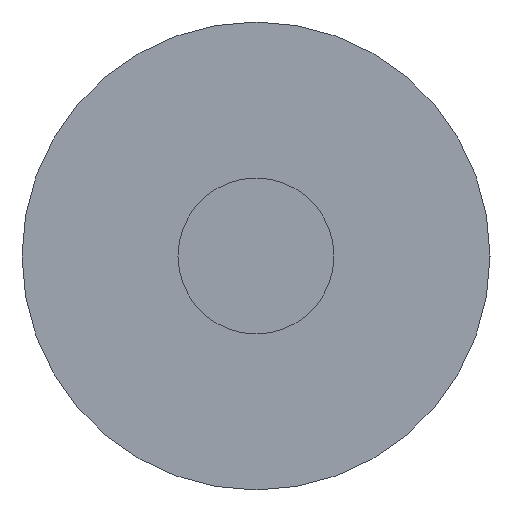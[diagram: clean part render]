
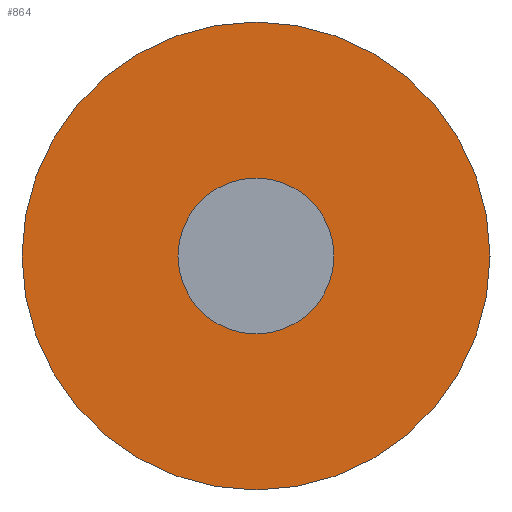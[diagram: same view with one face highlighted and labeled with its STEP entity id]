
A CAD part, left-side view. The second image highlights one B-rep face of the part: STEP entity #864.
In plain terms, the highlighted planar face has unit normal (-1, 0, 0).
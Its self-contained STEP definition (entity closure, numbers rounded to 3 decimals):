
#864 = ADVANCED_FACE( '', ( #2150, #2151 ), #2152, .F. );
#2150 = FACE_BOUND( '', #3875, .T. );
#2151 = FACE_OUTER_BOUND( '', #3876, .T. );
#2152 = PLANE( '', #3877 );
#3875 = EDGE_LOOP( '', ( #6004 ) );
#3876 = EDGE_LOOP( '', ( #6005 ) );
#3877 = AXIS2_PLACEMENT_3D( '', #6006, #6007, #6008 );
#6004 = ORIENTED_EDGE( '', *, *, #7504, .F. );
#6005 = ORIENTED_EDGE( '', *, *, #7865, .T. );
#6006 = CARTESIAN_POINT( '', ( -125., 0., 15. ) );
#6007 = DIRECTION( '', ( 1., 0., 0. ) );
#6008 = DIRECTION( '', ( 0., 0., -1. ) );
#7504 = EDGE_CURVE( '', #8463, #8463, #8464, .T. );
#7865 = EDGE_CURVE( '', #9031, #9031, #9032, .T. );
#8463 = VERTEX_POINT( '', #9751 );
#8464 = CIRCLE( '', #9752, 5. );
#9031 = VERTEX_POINT( '', #10319 );
#9032 = CIRCLE( '', #10320, 15. );
#9751 = CARTESIAN_POINT( '', ( -125., 0., 5. ) );
#9752 = AXIS2_PLACEMENT_3D( '', #11087, #11088, #11089 );
#10319 = CARTESIAN_POINT( '', ( -125., 0., 15. ) );
#10320 = AXIS2_PLACEMENT_3D( '', #11708, #11709, #11710 );
#11087 = CARTESIAN_POINT( '', ( -125., 0., 0. ) );
#11088 = DIRECTION( '', ( -1., 0., 0. ) );
#11089 = DIRECTION( '', ( 0., 0., 1. ) );
#11708 = CARTESIAN_POINT( '', ( -125., 0., 0. ) );
#11709 = DIRECTION( '', ( -1., 0., 0. ) );
#11710 = DIRECTION( '', ( 0., 0., 1. ) );
